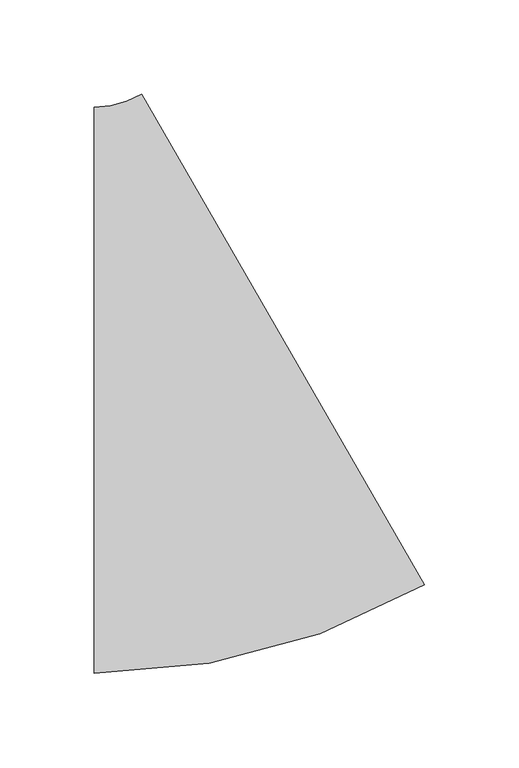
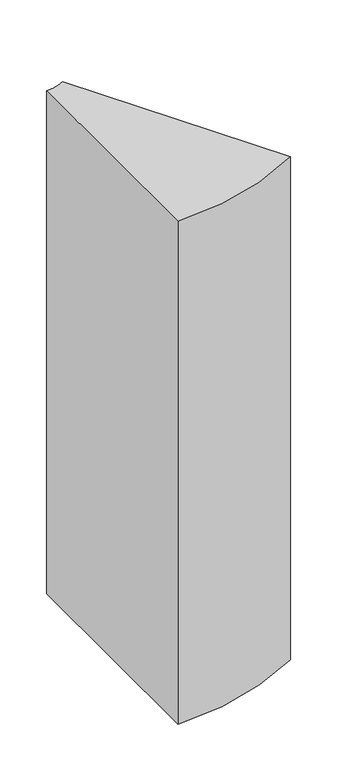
"""IFC4 building model written with IfcOpenShell, lengths in millimetres: duct fitting geometry, ADSK_ОтводВоздуховодов_Прямоугольный1 : Стандарт 2."""

from ifc_helpers import new_model, si_unit, point, frame, frame_2d, origin, place, context, project, spatial, polyline, circle_curve, trimmed, segment, composite_curve, outline, extrude, source, transform, mapped, element, save


def duct_fitting_86a34755(model_context):
    return source(origin(), model_context, "Body", "SweptSolid", [
        extrude(outline(composite_curve([segment(trimmed(circle_curve(frame_2d((-53.589837, 200.0)), 350.0), [point((121.4101588, -103.1088937))], [point((-53.589837, -150.0))], False, "CARTESIAN"), True, "CONTINUOUS"), segment(polyline([(-53.589837, -150.0), (-53.589837, 150.0)]), True, "CONTINUOUS"), segment(trimmed(circle_curve(frame_2d((-53.589837, 200.0)), 50.0), [point((-53.589837, 150.0))], [point((-28.5898376, 156.6987295))], True, "CARTESIAN"), True, "CONTINUOUS"), segment(polyline([(-28.5898376, 156.6987295), (121.4101588, -103.1088937)]), True, "CONTINUOUS")], self_intersect=False)), frame((0.0, 0.0, -350.0), z_axis=(0.0, 0.0, 1.0), x_axis=(1.0, 0.0, 0.0)), (0.0, 0.0, 1.0), 700.0),
    ])


if __name__ == "__main__":
    model = new_model("IFC4")
    model_context = context("Model", 3, world=origin())
    ifc_project = project(units=[si_unit("LENGTHUNIT", "METRE", prefix="MILLI")], contexts=[model_context])
    site = spatial("IfcSite", under=ifc_project)
    building = spatial("IfcBuilding", under=site)
    placement = place(None, origin())
    duct_fitting_shape = duct_fitting_86a34755(model_context)
    element("IfcDuctFitting", 1, ObjectType="ADSK_ОтводВоздуховодов_Прямоугольный1 : Стандарт 2", at=placement, inside=building, context=model_context, shape_type="MappedRepresentation", body=[
        mapped(duct_fitting_shape, transform((0.0, 0.0, 0.0), x_axis=(1.0, 0.0, 0.0), y_axis=(0.0, 1.0, 0.0), z_axis=(0.0, 0.0, 1.0))),
    ])
    save(model, "model.ifc")
